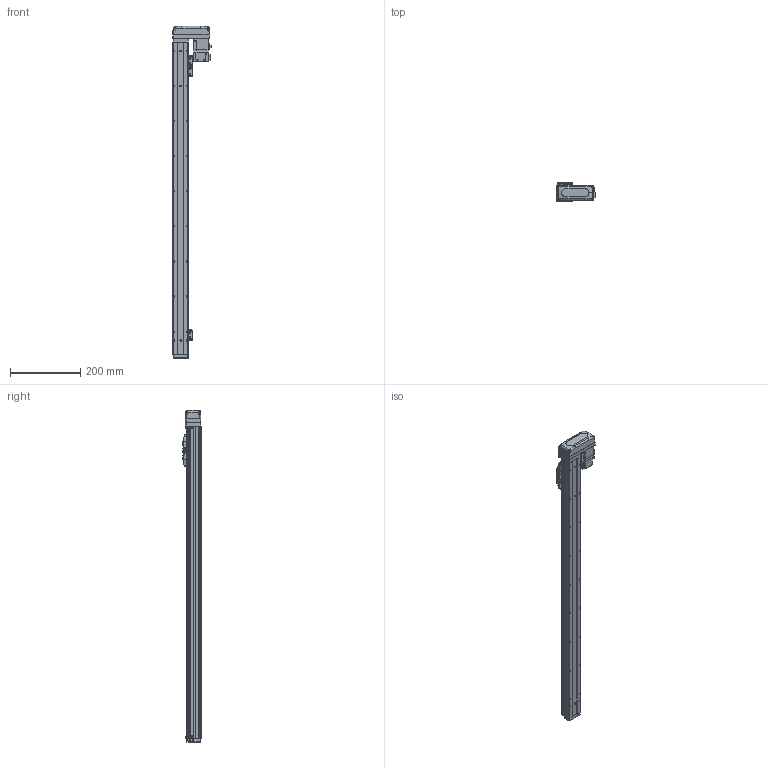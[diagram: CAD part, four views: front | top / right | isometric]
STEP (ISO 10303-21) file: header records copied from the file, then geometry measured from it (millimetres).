
FILE_DESCRIPTION (( 'STEP AP203' ), '1' );
FILE_NAME ('GTH4-750-BL-M05-C4.step', '2023-08-28T00:41:39', ( '微软用户' ), ( '微软中国' ), 'SwSTEP 2.0', 'SolidWorks 2020', '' );
FILE_SCHEMA (( 'CONFIG_CONTROL_DESIGN' ));
Length unit declared in the file: millimetre
Products named in the file (19): BTH-M3X5X6; BTH40-022; BTH50-026; GBT70.1-2000 M3×16; GBT 70.1-M2.5×6; GTH4-750-BL-M05-C4; BTH50-028; BTH40-004; BTH50-023; BTH40-013; BTH40-001-50_BTH40-001-750; BTH50-024; HG-KR13; BTH40-003; GBT 70.1-M3℅6; GBT 70.3-M3℅6; BTH40-006; GBT96.1-2002 3×0.8; BTH40-027-1
Assembly tree (47 placements, depth 2):
  GTH4-750-BL-M05-C4
    BTH40-001-50_BTH40-001-750
    BTH40-003
    BTH40-006
    BTH-M3X5X6  x8
    GBT70.1-2000 M3×16  x4
    BTH50-028  x2
    BTH50-023  x3
    BTH50-024  x3
    GBT 70.1-M3℅6  x6
    GBT96.1-2002 3×0.8  x6
    BTH40-022
    GBT 70.1-M2.5×6  x2
    BTH40-004
    BTH40-013
    HG-KR13
    GBT 70.3-M3℅6  x4
    BTH40-027-1
    BTH50-026
Bounding box: 108.8 x 52 x 946 mm (x, y, z)
Volume: 1646388.2 mm3; surface area: 277086.8 mm2
Topology: 49 solids, 49 shells, 1975 faces, 4655 edges, 2870 vertices
Faces by surface type: plane 1052, cylinder 507, cone 250, torus 128, bspline 34, sphere 4
Entity records: 39635 total; most frequent: CARTESIAN_POINT 7586, DIRECTION 6208, ORIENTED_EDGE 5956, EDGE_CURVE 2978, AXIS2_PLACEMENT_3D 2127, VECTOR 1954, LINE 1954, VERTEX_POINT 1857
